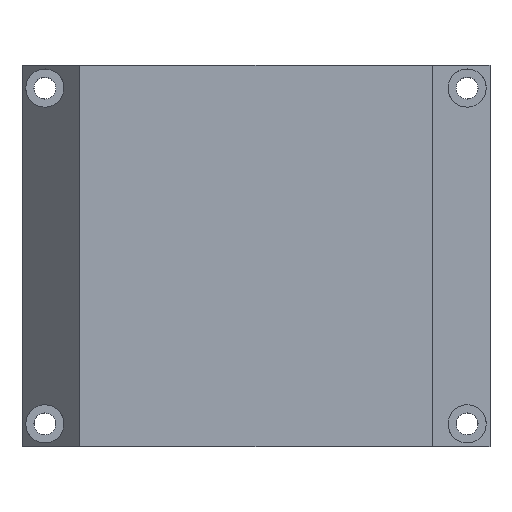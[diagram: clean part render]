
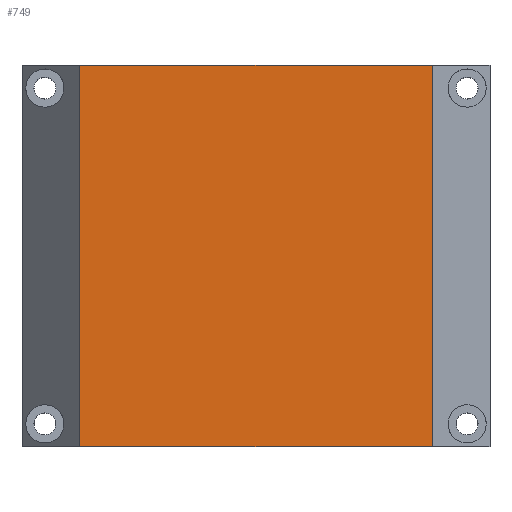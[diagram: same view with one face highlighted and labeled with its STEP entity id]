
A CAD part, top view. The second image highlights one B-rep face of the part: STEP entity #749.
In plain terms, the highlighted planar face has unit normal (0, 0, 1).
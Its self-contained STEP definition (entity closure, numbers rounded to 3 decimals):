
#61 = CARTESIAN_POINT ( 'NONE',  ( -92., 75., 35. ) ) ;
#130 = LINE ( 'NONE', #1817, #1776 ) ;
#341 = EDGE_CURVE ( 'NONE', #806, #1113, #1435, .T. ) ;
#376 = LINE ( 'NONE', #1564, #393 ) ;
#393 = VECTOR ( 'NONE', #992, 1000. ) ;
#468 = DIRECTION ( 'NONE',  ( 1., 0., 0. ) ) ;
#576 = PLANE ( 'NONE',  #1232 ) ;
#728 = DIRECTION ( 'NONE',  ( 0., 0., 1. ) ) ;
#749 = ADVANCED_FACE ( 'NONE', ( #1318 ), #576, .T. ) ;
#806 = VERTEX_POINT ( 'NONE', #1367 ) ;
#807 = CARTESIAN_POINT ( 'NONE',  ( -69.344, -75., 35. ) ) ;
#881 = VECTOR ( 'NONE', #1532, 1000. ) ;
#992 = DIRECTION ( 'NONE',  ( 0., -1., 0. ) ) ;
#1024 = EDGE_LOOP ( 'NONE', ( #1217, #1471, #1835, #1208 ) ) ;
#1081 = CARTESIAN_POINT ( 'NONE',  ( -69.344, 75., 35. ) ) ;
#1103 = EDGE_CURVE ( 'NONE', #1203, #806, #130, .T. ) ;
#1113 = VERTEX_POINT ( 'NONE', #1837 ) ;
#1122 = DIRECTION ( 'NONE',  ( 0., 1., 0. ) ) ;
#1177 = CARTESIAN_POINT ( 'NONE',  ( 0., 0., 35. ) ) ;
#1203 = VERTEX_POINT ( 'NONE', #807 ) ;
#1208 = ORIENTED_EDGE ( 'NONE', *, *, #341, .T. ) ;
#1217 = ORIENTED_EDGE ( 'NONE', *, *, #1853, .T. ) ;
#1232 = AXIS2_PLACEMENT_3D ( 'NONE', #1177, #728, #1785 ) ;
#1318 = FACE_OUTER_BOUND ( 'NONE', #1024, .T. ) ;
#1367 = CARTESIAN_POINT ( 'NONE',  ( 69.344, -75., 35. ) ) ;
#1435 = LINE ( 'NONE', #1571, #1805 ) ;
#1471 = ORIENTED_EDGE ( 'NONE', *, *, #1908, .T. ) ;
#1532 = DIRECTION ( 'NONE',  ( -1., 0., 0. ) ) ;
#1564 = CARTESIAN_POINT ( 'NONE',  ( -69.344, -75., 35. ) ) ;
#1571 = CARTESIAN_POINT ( 'NONE',  ( 69.344, 75., 35. ) ) ;
#1683 = LINE ( 'NONE', #61, #881 ) ;
#1776 = VECTOR ( 'NONE', #468, 1000. ) ;
#1785 = DIRECTION ( 'NONE',  ( 1., 0., 0. ) ) ;
#1794 = VERTEX_POINT ( 'NONE', #1081 ) ;
#1805 = VECTOR ( 'NONE', #1122, 1000. ) ;
#1817 = CARTESIAN_POINT ( 'NONE',  ( -92., -75., 35. ) ) ;
#1835 = ORIENTED_EDGE ( 'NONE', *, *, #1103, .T. ) ;
#1837 = CARTESIAN_POINT ( 'NONE',  ( 69.344, 75., 35. ) ) ;
#1853 = EDGE_CURVE ( 'NONE', #1113, #1794, #1683, .T. ) ;
#1908 = EDGE_CURVE ( 'NONE', #1794, #1203, #376, .T. ) ;
